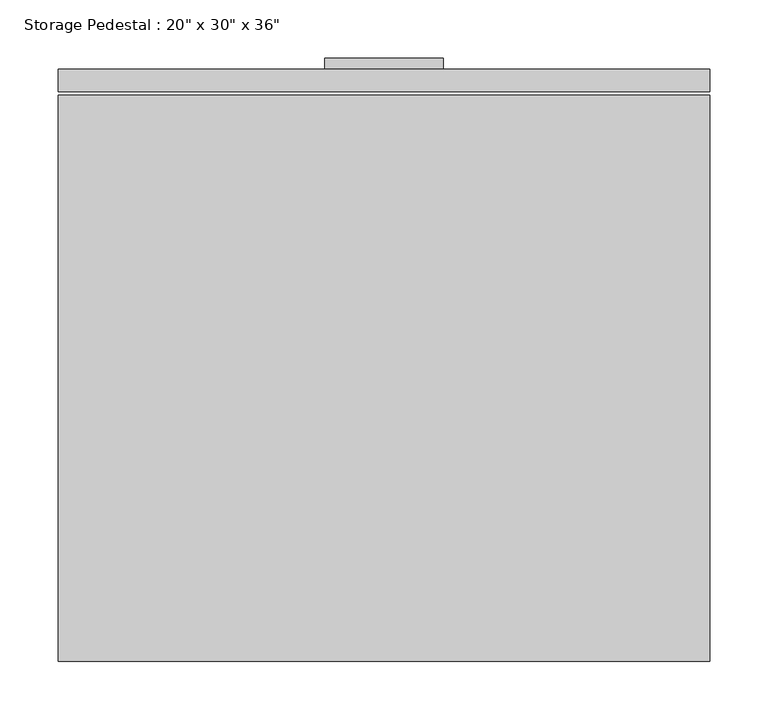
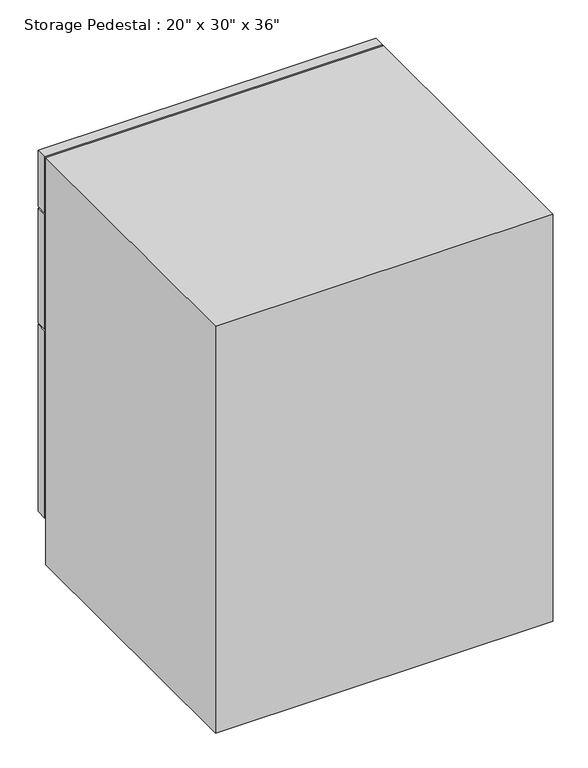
"""IFC4 building model written with IfcOpenShell, lengths in millimetres: furniture geometry."""

from ifc_helpers import new_model, si_unit, frame, origin, origin_with_axes, place, context, project, spatial, polyline, outline, extrude, source, transform, mapped, element, save


def furniture_4718bb14(model_context):
    return source(origin(), model_context, "Body", "SweptSolid", [
        extrude(outline(polyline([(99.3774861, 1188.3183761), (99.3774861, 1169.2683761), (-459.4225139, 1169.2683761), (-459.4225139, 1188.3183761), (99.3774861, 1188.3183761)])), frame((0.0, 0.0, 79.375), z_axis=(0.0, 0.0, 1.0), x_axis=(1.0, 0.0, 0.0)), (0.0, 0.0, 1.0), 327.025),
        extrude(outline(polyline([(99.3774861, 1188.3183761), (99.3774861, 1169.2683761), (-459.4225139, 1169.2683761), (-459.4225139, 1188.3183761), (99.3774861, 1188.3183761)])), frame((0.0, 0.0, 409.575), z_axis=(0.0, 0.0, 1.0), x_axis=(1.0, 0.0, 0.0)), (0.0, 0.0, 1.0), 200.025),
        extrude(outline(polyline([(99.3774861, 1188.3183761), (99.3774861, 1169.2683761), (-459.4225139, 1169.2683761), (-459.4225139, 1188.3183761), (99.3774861, 1188.3183761)])), frame((0.0, 0.0, 612.775), z_axis=(0.0, 0.0, 1.0), x_axis=(1.0, 0.0, 0.0)), (0.0, 0.0, 1.0), 98.425),
        extrude(outline(polyline([(99.3774861, 680.3183761), (-459.4225139, 680.3183761), (-459.4225139, 1166.0933761), (99.3774861, 1166.0933761), (99.3774861, 680.3183761)])), origin_with_axes(), (0.0, 0.0, 1.0), 711.2),
        extrude(outline(polyline([(-129.2225139, 1197.8433761), (-129.2225139, 1188.3183761), (-230.8225139, 1188.3183761), (-230.8225139, 1197.8433761), (-129.2225139, 1197.8433761)])), frame((0.0, 0.0, 660.4), z_axis=(0.0, 0.0, 1.0), x_axis=(1.0, 0.0, 0.0)), (0.0, 0.0, 1.0), 25.4),
        extrude(outline(polyline([(-129.2225139, 1197.8433761), (-129.2225139, 1188.3183761), (-230.8225139, 1188.3183761), (-230.8225139, 1197.8433761), (-129.2225139, 1197.8433761)])), frame((0.0, 0.0, 558.8), z_axis=(0.0, 0.0, 1.0), x_axis=(1.0, 0.0, 0.0)), (0.0, 0.0, 1.0), 25.4),
        extrude(outline(polyline([(-129.2225139, 1197.8433761), (-129.2225139, 1188.3183761), (-230.8225139, 1188.3183761), (-230.8225139, 1197.8433761), (-129.2225139, 1197.8433761)])), frame((0.0, 0.0, 355.6), z_axis=(0.0, 0.0, 1.0), x_axis=(1.0, 0.0, 0.0)), (0.0, 0.0, 1.0), 25.4),
    ])


if __name__ == "__main__":
    model = new_model("IFC4")
    model_context = context("Model", 3, world=origin())
    ifc_project = project(units=[si_unit("LENGTHUNIT", "METRE", prefix="MILLI")], contexts=[model_context])
    site = spatial("IfcSite", under=ifc_project)
    building = spatial("IfcBuilding", under=site)
    placement = place(None, origin())
    furniture_shape = furniture_4718bb14(model_context)
    element("IfcFurniture", 1, ObjectType="Storage Pedestal : 20\" x 30\" x 36\"", at=placement, inside=building, context=model_context, shape_type="MappedRepresentation", body=[
        mapped(furniture_shape, transform((0.0, 0.0, 0.0), x_axis=(1.0, 0.0, 0.0), y_axis=(0.0, 1.0, 0.0), z_axis=(0.0, 0.0, 1.0))),
    ])
    save(model, "model.ifc")
